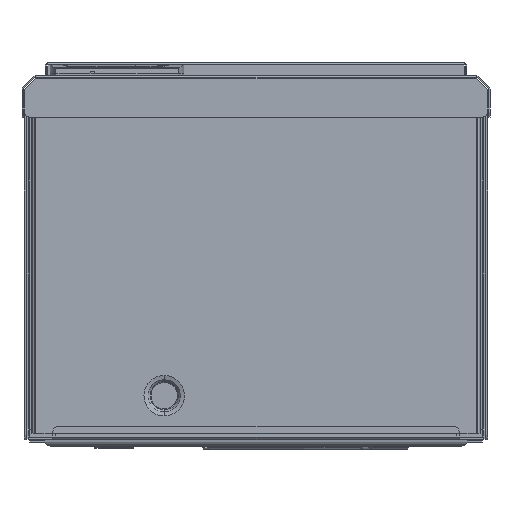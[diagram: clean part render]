
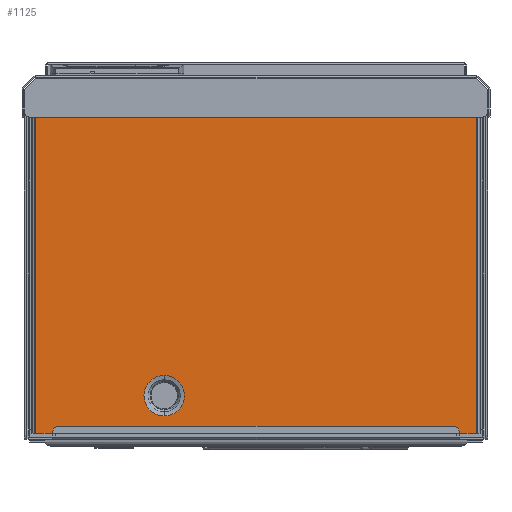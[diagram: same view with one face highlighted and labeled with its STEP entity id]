
A CAD part, front view. The second image highlights one B-rep face of the part: STEP entity #1125.
In plain terms, the highlighted planar face has unit normal (0, -1, 0).
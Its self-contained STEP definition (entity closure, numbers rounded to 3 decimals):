
#1125=ADVANCED_FACE('',(#2583,#1543),#20066,.T.);
#1543=FACE_BOUND('',#4041,.T.);
#2583=FACE_OUTER_BOUND('',#4040,.T.);
#4040=EDGE_LOOP('',(#9897,#9898,#9899,#9900,#9901,#9902,#9903,#9904,#9905,
#9906));
#4041=EDGE_LOOP('',(#9907,#9908));
#9897=ORIENTED_EDGE('',*,*,#13428,.F.);
#9898=ORIENTED_EDGE('',*,*,#13429,.F.);
#9899=ORIENTED_EDGE('',*,*,#13430,.F.);
#9900=ORIENTED_EDGE('',*,*,#13431,.F.);
#9901=ORIENTED_EDGE('',*,*,#13432,.F.);
#9902=ORIENTED_EDGE('',*,*,#13433,.F.);
#9903=ORIENTED_EDGE('',*,*,#13434,.F.);
#9904=ORIENTED_EDGE('',*,*,#13435,.F.);
#9905=ORIENTED_EDGE('',*,*,#13436,.F.);
#9906=ORIENTED_EDGE('',*,*,#13437,.F.);
#9907=ORIENTED_EDGE('',*,*,#13442,.F.);
#9908=ORIENTED_EDGE('',*,*,#13386,.F.);
#13386=EDGE_CURVE('',#18750,#18751,#14002,.T.);
#13428=EDGE_CURVE('',#18790,#18791,#16801,.T.);
#13429=EDGE_CURVE('',#18792,#18790,#16802,.T.);
#13430=EDGE_CURVE('',#18793,#18792,#16803,.T.);
#13431=EDGE_CURVE('',#18794,#18793,#16804,.T.);
#13432=EDGE_CURVE('',#18795,#18794,#16805,.T.);
#13433=EDGE_CURVE('',#18796,#18795,#16806,.T.);
#13434=EDGE_CURVE('',#18797,#18796,#16807,.T.);
#13435=EDGE_CURVE('',#18798,#18797,#16808,.T.);
#13436=EDGE_CURVE('',#18799,#18798,#16809,.T.);
#13437=EDGE_CURVE('',#18791,#18799,#16810,.T.);
#13442=EDGE_CURVE('',#18751,#18750,#14006,.T.);
#14002=(
BOUNDED_CURVE()
B_SPLINE_CURVE(2,(#36648,#36649,#36650,#36651,#36652),.UNSPECIFIED.,.F.,
 .F.)
B_SPLINE_CURVE_WITH_KNOTS((3,2,3),(0.,19.231,38.461),
 .UNSPECIFIED.)
CURVE()
GEOMETRIC_REPRESENTATION_ITEM()
RATIONAL_B_SPLINE_CURVE((1.,0.707,1.,0.707,1.))
REPRESENTATION_ITEM('')
);
#14006=(
BOUNDED_CURVE()
B_SPLINE_CURVE(2,(#36768,#36769,#36770,#36771,#36772),.UNSPECIFIED.,.F.,
 .F.)
B_SPLINE_CURVE_WITH_KNOTS((3,2,3),(0.,19.231,38.461),
 .UNSPECIFIED.)
CURVE()
GEOMETRIC_REPRESENTATION_ITEM()
RATIONAL_B_SPLINE_CURVE((1.,0.707,1.,0.707,1.))
REPRESENTATION_ITEM('')
);
#16801=B_SPLINE_CURVE_WITH_KNOTS('',1,(#36740,#36741),.UNSPECIFIED.,.F.,
 .F.,(2,2),(-0.604,0.),.UNSPECIFIED.);
#16802=B_SPLINE_CURVE_WITH_KNOTS('',1,(#36742,#36743),.UNSPECIFIED.,.F.,
 .F.,(2,2),(-0.604,0.),.UNSPECIFIED.);
#16803=B_SPLINE_CURVE_WITH_KNOTS('',1,(#36744,#36745),.UNSPECIFIED.,.F.,
 .F.,(2,2),(-209.896,0.),.UNSPECIFIED.);
#16804=B_SPLINE_CURVE_WITH_KNOTS('',1,(#36746,#36747),.UNSPECIFIED.,.F.,
 .F.,(2,2),(-12.,0.),.UNSPECIFIED.);
#16805=B_SPLINE_CURVE_WITH_KNOTS('',1,(#36748,#36749),.UNSPECIFIED.,.F.,
 .F.,(2,2),(-242.5,0.),.UNSPECIFIED.);
#16806=B_SPLINE_CURVE_WITH_KNOTS('',1,(#36750,#36751),.UNSPECIFIED.,.F.,
 .F.,(2,2),(-12.,0.),.UNSPECIFIED.);
#16807=B_SPLINE_CURVE_WITH_KNOTS('',1,(#36752,#36753),.UNSPECIFIED.,.F.,
 .F.,(2,2),(-209.896,0.),.UNSPECIFIED.);
#16808=B_SPLINE_CURVE_WITH_KNOTS('',1,(#36754,#36755),.UNSPECIFIED.,.F.,
 .F.,(2,2),(-0.604,0.),.UNSPECIFIED.);
#16809=B_SPLINE_CURVE_WITH_KNOTS('',1,(#36756,#36757),.UNSPECIFIED.,.F.,
 .F.,(2,2),(-0.604,0.),.UNSPECIFIED.);
#16810=B_SPLINE_CURVE_WITH_KNOTS('',1,(#36758,#36759),.UNSPECIFIED.,.F.,
 .F.,(2,2),(-265.293,0.),.UNSPECIFIED.);
#18750=VERTEX_POINT('',#36535);
#18751=VERTEX_POINT('',#36536);
#18790=VERTEX_POINT('',#36575);
#18791=VERTEX_POINT('',#36576);
#18792=VERTEX_POINT('',#36577);
#18793=VERTEX_POINT('',#36578);
#18794=VERTEX_POINT('',#36579);
#18795=VERTEX_POINT('',#36580);
#18796=VERTEX_POINT('',#36581);
#18797=VERTEX_POINT('',#36582);
#18798=VERTEX_POINT('',#36583);
#18799=VERTEX_POINT('',#36584);
#20066=PLANE('',#21137);
#21137=AXIS2_PLACEMENT_3D('',#36154,#22240,$);
#22240=DIRECTION('',(0.,-1.,0.));
#36154=CARTESIAN_POINT('',(-213.844,-284.219,-84.17));
#36535=CARTESIAN_POINT('',(-109.444,-284.219,-52.613));
#36536=CARTESIAN_POINT('',(-109.444,-284.219,-28.128));
#36575=CARTESIAN_POINT('',(-186.59,-284.219,146.776));
#36576=CARTESIAN_POINT('',(-186.59,-284.219,147.38));
#36577=CARTESIAN_POINT('',(-187.194,-284.219,146.776));
#36578=CARTESIAN_POINT('',(-187.194,-284.219,-63.12));
#36579=CARTESIAN_POINT('',(-175.194,-284.219,-63.12));
#36580=CARTESIAN_POINT('',(67.306,-284.219,-63.12));
#36581=CARTESIAN_POINT('',(79.306,-284.219,-63.12));
#36582=CARTESIAN_POINT('',(79.306,-284.219,146.776));
#36583=CARTESIAN_POINT('',(78.703,-284.219,146.776));
#36584=CARTESIAN_POINT('',(78.703,-284.219,147.38));
#36648=CARTESIAN_POINT('',(-109.444,-284.219,-52.613));
#36649=CARTESIAN_POINT('',(-97.201,-284.219,-52.613));
#36650=CARTESIAN_POINT('',(-97.201,-284.219,-40.37));
#36651=CARTESIAN_POINT('',(-97.201,-284.219,-28.128));
#36652=CARTESIAN_POINT('',(-109.444,-284.219,-28.128));
#36740=CARTESIAN_POINT('',(-186.59,-284.219,146.776));
#36741=CARTESIAN_POINT('',(-186.59,-284.219,147.38));
#36742=CARTESIAN_POINT('',(-187.194,-284.219,146.776));
#36743=CARTESIAN_POINT('',(-186.59,-284.219,146.776));
#36744=CARTESIAN_POINT('',(-187.194,-284.219,-63.12));
#36745=CARTESIAN_POINT('',(-187.194,-284.219,146.776));
#36746=CARTESIAN_POINT('',(-175.194,-284.219,-63.12));
#36747=CARTESIAN_POINT('',(-187.194,-284.219,-63.12));
#36748=CARTESIAN_POINT('',(67.306,-284.219,-63.12));
#36749=CARTESIAN_POINT('',(-175.194,-284.219,-63.12));
#36750=CARTESIAN_POINT('',(79.306,-284.219,-63.12));
#36751=CARTESIAN_POINT('',(67.306,-284.219,-63.12));
#36752=CARTESIAN_POINT('',(79.306,-284.219,146.776));
#36753=CARTESIAN_POINT('',(79.306,-284.219,-63.12));
#36754=CARTESIAN_POINT('',(78.703,-284.219,146.776));
#36755=CARTESIAN_POINT('',(79.306,-284.219,146.776));
#36756=CARTESIAN_POINT('',(78.703,-284.219,147.38));
#36757=CARTESIAN_POINT('',(78.703,-284.219,146.776));
#36758=CARTESIAN_POINT('',(-186.59,-284.219,147.38));
#36759=CARTESIAN_POINT('',(78.703,-284.219,147.38));
#36768=CARTESIAN_POINT('',(-109.444,-284.219,-28.128));
#36769=CARTESIAN_POINT('',(-121.687,-284.219,-28.128));
#36770=CARTESIAN_POINT('',(-121.687,-284.219,-40.37));
#36771=CARTESIAN_POINT('',(-121.687,-284.219,-52.613));
#36772=CARTESIAN_POINT('',(-109.444,-284.219,-52.613));
